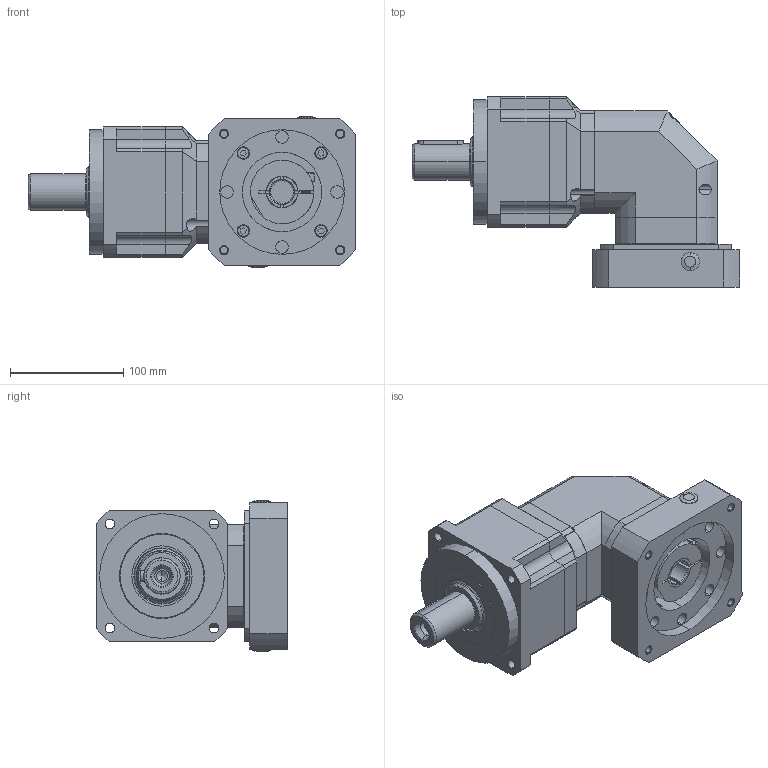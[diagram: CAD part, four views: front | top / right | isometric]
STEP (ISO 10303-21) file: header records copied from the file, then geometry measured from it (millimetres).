
FILE_DESCRIPTION (( 'STEP AP203' ), '1' );
FILE_NAME ('HABR115-L2-S2-P2-22-110-145-M8.STEP', '2024-05-20T07:11:23', ( 'MM' ), ( 'Microsoft' ), 'SwSTEP 2.0', 'SolidWorks 2018', '' );
FILE_SCHEMA (( 'CONFIG_CONTROL_DESIGN' ));
Length unit declared in the file: millimetre
Products named in the file (35): _PFZ090_--6330001; _110-14-215720001; _115_-__M8X20L_-_-0002; _PFZ090_-_-116440001; _110-145-M8_-_-1250001; _115_090__-_M5_1_0001; _PFZ090_-_-244620001; _PFZ090_22__-__0001; _115_-_M8_1_0001; _A10X8X40L_-_-2_0001; HABR115-L2-S2-P2-22-110-145-M8; _PFZ090_-_-186620001; _110-14-154320001; _PFZ090_-_-174870001; _115_090__-_-55070001; _PFZ090_-_-7_0001; _PFZ090_-__-58600001; _115_090__-_-46840001; _110-145-M8_-_-2530001; PHFZ115-L2-22-110-0001_ASM; _115_-_2_0001; _115_090__-__M6_-_0001; _PFZ090_-67430001; _PFZ090-16550001; _110-145-M8_-__M6_0002; _PFZ090-203780001; _110-145-M8_-__HP-0001; _115_-_1_0001; _115-12_-_-4_0001; _PFZ090-23690001; _110-145-M8_-_-1820001; _PFZ090-145760001; _PFZ090_-_-2_0001; _PFZ090_-__-38360001; _115_090__-_-195610001
Assembly tree (34 placements, depth 3):
  HABR115-L2-S2-P2-22-110-145-M8
    PHFZ115-L2-22-110-0001_ASM
      _PFZ090_--6330001
      _PFZ090-16550001
      _110-145-M8_-_-1820001
      _PFZ090-23690001
      _115_090__-_M5_1_0001
      _PFZ090_-__-38360001
      _115_090__-_-46840001
      _115_090__-_-55070001
      _PFZ090_-_-7_0001
      _PFZ090_-__-58600001
      _PFZ090_-67430001
      _115_-_2_0001
      _115_-_M8_1_0001
      _A10X8X40L_-_-2_0001
      _PFZ090_-_-116440001
      _110-145-M8_-_-1250001
      _110-145-M8_-__HP-0001
      _PFZ090-145760001
      _110-14-154320001
      _115_-_1_0001
      _115_-__M8X20L_-_-0002
      _PFZ090_-_-174870001
      _PFZ090_-_-186620001
      _PFZ090_22__-__0001
      _115_090__-_-195610001
      _PFZ090-203780001
      _110-14-215720001
      _115-12_-_-4_0001
      _PFZ090_-_-2_0001
      _PFZ090_-_-244620001
      _110-145-M8_-_-2530001
      _110-145-M8_-__M6_0002
      _115_090__-__M6_-_0001
Bounding box: 289 x 168 x 133 mm (x, y, z)
Volume: 2518014.4 mm3; surface area: 294438.6 mm2
Topology: 33 solids, 33 shells, 832 faces, 2031 edges, 1315 vertices
Faces by surface type: plane 374, cylinder 284, cone 100, bspline 66, torus 8
Entity records: 35470 total; most frequent: CARTESIAN_POINT 12424, ORIENTED_EDGE 4030, DIRECTION 3996, EDGE_CURVE 2015, AXIS2_PLACEMENT_3D 1488, VERTEX_POINT 1315, LINE 1020, VECTOR 1020
